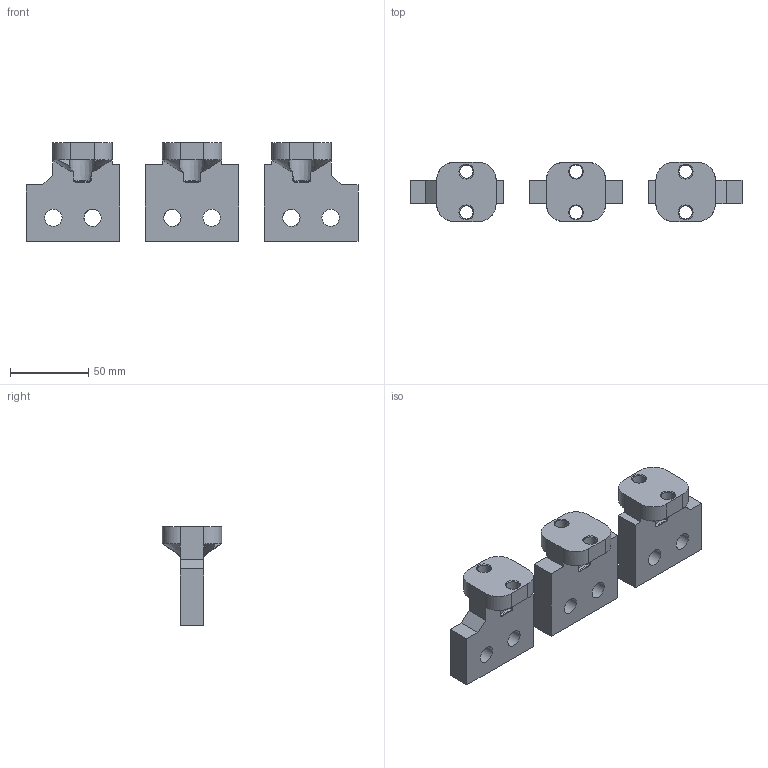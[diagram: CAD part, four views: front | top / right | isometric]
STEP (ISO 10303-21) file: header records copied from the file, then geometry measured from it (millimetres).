
FILE_DESCRIPTION(('STEP AP203'), '1');
FILE_NAME('Âûâîäû ãîðèçîíò. 15ìì íèç', '', ('UNSPECIFIED'), ('UNSPECIFIED'), 'C3D Converter', 'C3D Toolkit', '');
FILE_SCHEMA(('CONFIG_CONTROL_DESIGN'));
Length unit declared in the file: millimetre
Assembly tree (3 placements, depth 2):
  (unnamed)
    (unnamed)
    (unnamed)
    (unnamed)
Bounding box: 212 x 38 x 63 mm (x, y, z)
Volume: 164354.1 mm3; surface area: 39816.2 mm2
Topology: 3 solids, 3 shells, 173 faces, 447 edges, 280 vertices
Faces by surface type: bspline 63, plane 62, cylinder 30, cone 12, torus 6
Full cylindrical faces by diameter (mm): 8.5 x6, 11 x6
Entity records: 20344 total; most frequent: CARTESIAN_POINT 15160, ORIENTED_EDGE 858, DIRECTION 531, EDGE_CURVE 429, VERTEX_POINT 280, EDGE_LOOP 215, B_SPLINE_CURVE_WITH_KNOTS 204, AXIS2_PLACEMENT_3D 192
